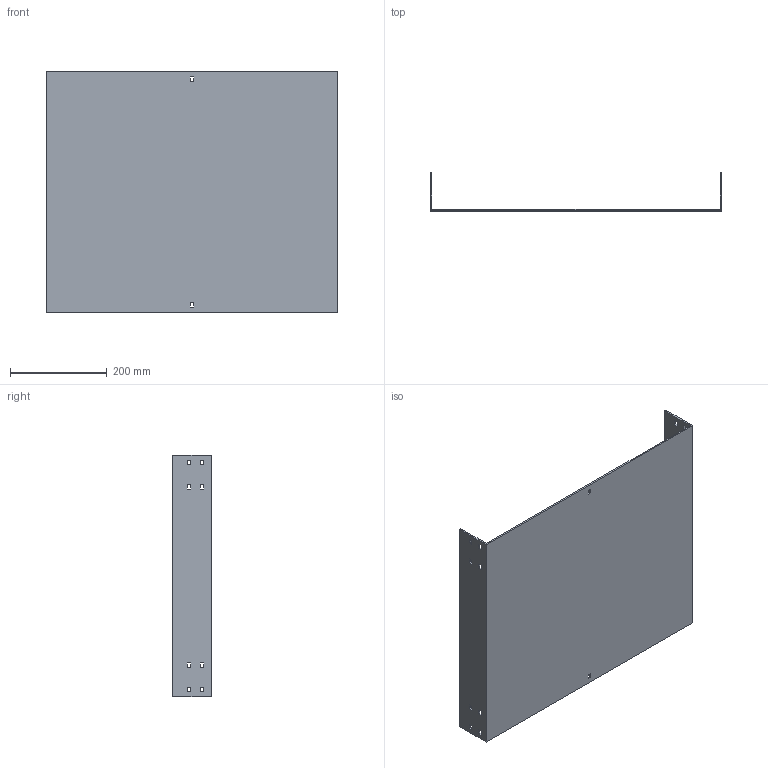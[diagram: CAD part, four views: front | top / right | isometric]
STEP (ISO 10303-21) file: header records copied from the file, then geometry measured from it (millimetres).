
FILE_DESCRIPTION (( 'STEP AP214' ), '1' );
FILE_NAME ('03F7C600.step', '2025-02-21T13:33:16', ( '' ), ( '' ), 'SwSTEP 2.0', 'SolidWorks 2023', '' );
FILE_SCHEMA (( 'AUTOMOTIVE_DESIGN' ));
Length unit declared in the file: millimetre
Products named in the file (1): 03F7C600
Bounding box: 604 x 79 x 500 mm (x, y, z)
Volume: 1316920.5 mm3; surface area: 763432 mm2
Topology: 1 solids, 1 shells, 82 faces, 240 edges, 160 vertices
Faces by surface type: plane 82
Entity records: 2759 total; most frequent: CARTESIAN_POINT 483, ORIENTED_EDGE 480, DIRECTION 406, LINE 240, EDGE_CURVE 240, VECTOR 240, VERTEX_POINT 160, EDGE_LOOP 118
